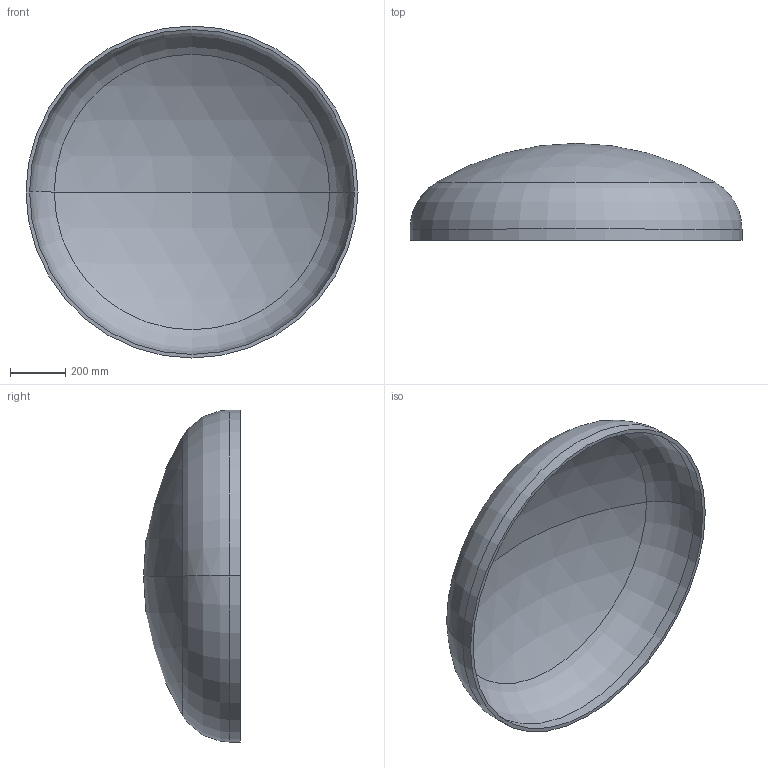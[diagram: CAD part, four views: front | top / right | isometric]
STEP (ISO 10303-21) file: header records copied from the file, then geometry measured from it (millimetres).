
FILE_DESCRIPTION (( 'STEP AP203' ), '1' );
FILE_NAME ('DIN 28013 Korbbogenform_-_Boden DIN 28013 - 1200 x 40 - I - s=13.step', '2016-07-01T09:21:24', ( '' ), ( '' ), 'SwSTEP 2.0', 'SolidWorks 2013', '' );
FILE_SCHEMA (( 'CONFIG_CONTROL_DESIGN' ));
Length unit declared in the file: millimetre
Products named in the file (1): DIN 28013 Korbbogenform_-_Boden DIN 28013 - 1200 x 40 - I - s=13
Bounding box: 1200 x 350.41 x 1200 mm (x, y, z)
Volume: 22016697 mm3; surface area: 3436014.8 mm2
Topology: 1 solids, 1 shells, 13 faces, 24 edges, 14 vertices
Faces by surface type: torus 4, cylinder 4, sphere 4, plane 1
Entity records: 407 total; most frequent: DIRECTION 72, CARTESIAN_POINT 52, ORIENTED_EDGE 48, AXIS2_PLACEMENT_3D 34, EDGE_CURVE 24, CIRCLE 20, EDGE_LOOP 14, VERTEX_POINT 14
